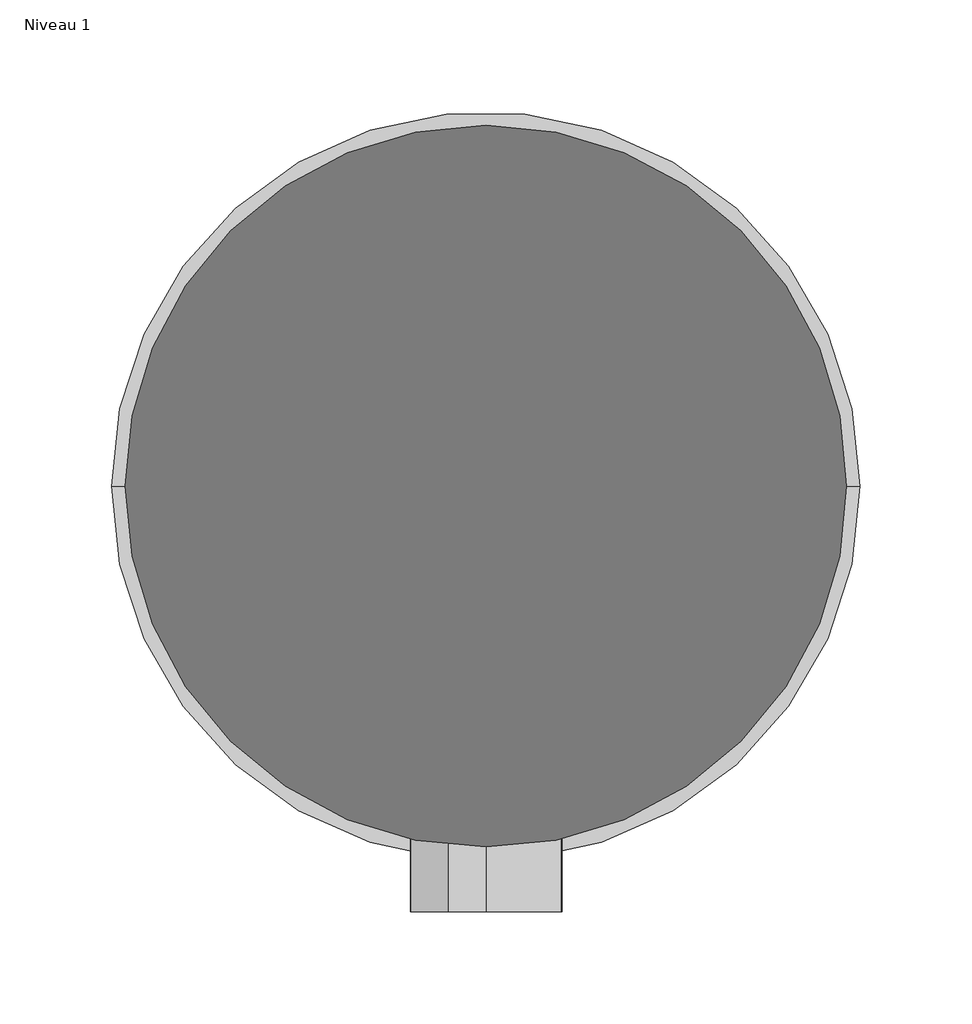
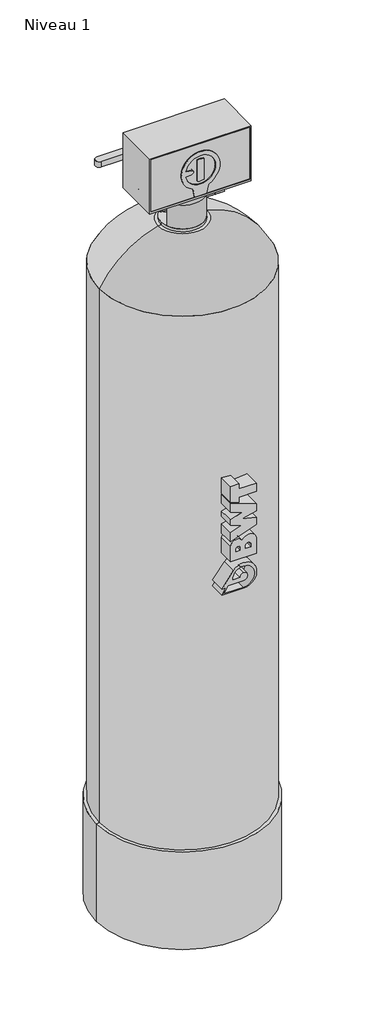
# One storey, incomplete: 1 flow terminal.
"""IFC4 building model written with IfcOpenShell, lengths in millimetres."""

from ifc_helpers import new_model, si_unit, origin, place, context, project, spatial, transform, mapped, element, save
from components import ec_65_0eb26893

model = new_model("IFC4")

# Units and contexts
model_context = context("Model", 3, world=origin())
ifc_project = project(units=[si_unit("LENGTHUNIT", "METRE", prefix="MILLI")], contexts=[model_context])

# Site, building, storey
site = spatial("IfcSite", under=ifc_project)
building = spatial("IfcBuilding", under=site)
storey = spatial("IfcBuildingStorey", under=building, Name="Niveau 1", Elevation=0.0)

# Flow terminal
placement = place(None, origin())
ec_65_shape = ec_65_0eb26893(model_context)
element("IfcFlowTerminal", 1, ObjectType="BWT_EC : EC 65", at=placement, inside=storey, context=model_context, shape_type="MappedRepresentation", body=[
    mapped(ec_65_shape, transform((4860.1039317, -7199.1350154, 0.0), x_axis=(1.0, 0.0, 0.0), y_axis=(0.0, 1.0, 0.0), z_axis=(0.0, 0.0, 1.0))),
])

save(model, "model.ifc")
